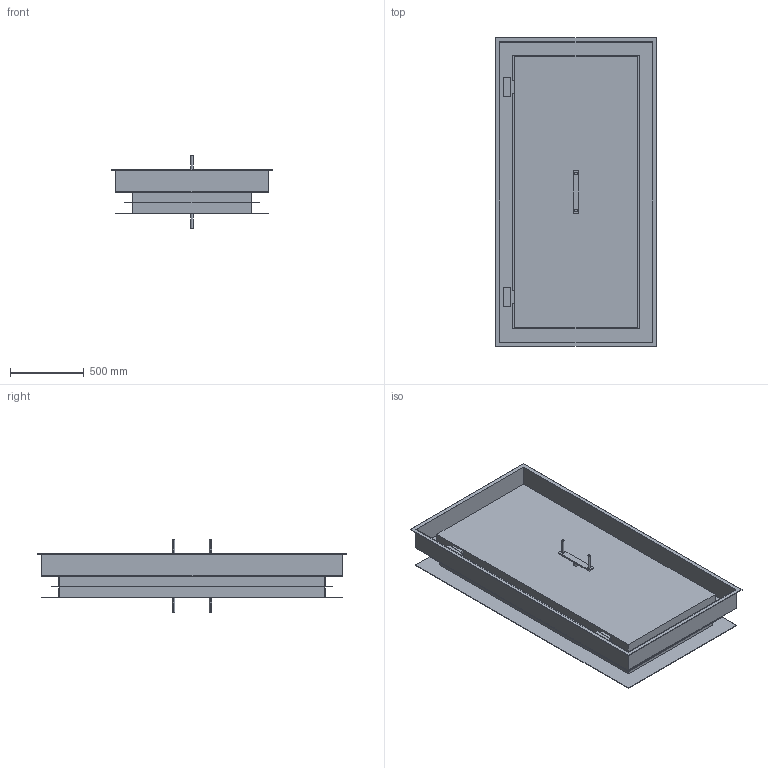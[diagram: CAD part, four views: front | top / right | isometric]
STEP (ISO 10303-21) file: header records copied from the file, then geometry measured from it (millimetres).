
FILE_DESCRIPTION((''),'2;1');
FILE_NAME('52057226','2022-11-04T10:55:42',('ka'),('HUBER SE'),'CREO PARAMETRIC BY PTC INC, 2022162','CREO PARAMETRIC BY PTC INC, 2022162','');
FILE_SCHEMA(('AUTOMOTIVE_DESIGN { 1 0 10303 214 1 1 1 1 }'));
Length unit declared in the file: millimetre
Products named in the file (1): 52057226
Bounding box: 1090 x 2090 x 495 mm (x, y, z)
Volume: 154369903.3 mm3; surface area: 10694381.1 mm2
Topology: 1 solids, 1 shells, 99 faces, 232 edges, 152 vertices
Faces by surface type: plane 87, cylinder 12
Entity records: 3678 total; most frequent: CARTESIAN_POINT 485, ORIENTED_EDGE 464, DIRECTION 454, EDGE_CURVE 232, VECTOR 208, LINE 208, VERTEX_POINT 152, AXIS2_PLACEMENT_3D 123
